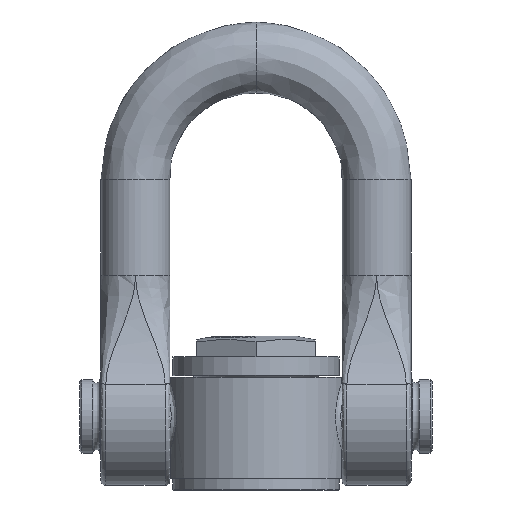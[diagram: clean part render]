
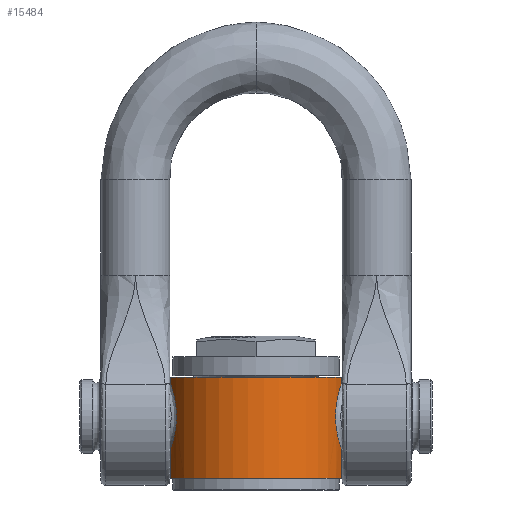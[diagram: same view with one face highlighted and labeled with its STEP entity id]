
A CAD part, left-side view. The second image highlights one B-rep face of the part: STEP entity #15484.
In plain terms, the highlighted cylindrical face has radius 37.5 mm (diameter 75 mm), a partial arc.
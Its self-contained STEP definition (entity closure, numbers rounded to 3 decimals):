
#977=LINE('',#27916,#1805);
#981=LINE('',#28282,#1809);
#983=LINE('',#28286,#1811);
#984=LINE('',#28288,#1812);
#1805=VECTOR('',#18634,10.);
#1809=VECTOR('',#18720,10.);
#1811=VECTOR('',#18726,10.);
#1812=VECTOR('',#18729,10.);
#2326=ELLIPSE('',#16526,17.07,15.009);
#2327=ELLIPSE('',#16527,17.07,15.009);
#2330=ELLIPSE('',#16530,17.07,15.009);
#2331=ELLIPSE('',#16531,17.07,15.009);
#2394=CYLINDRICAL_SURFACE('',#16551,37.5);
#2813=FACE_OUTER_BOUND('',#3738,.T.);
#3738=EDGE_LOOP('',(#12062,#12063,#12064,#12065,#12066,#12067,#12068,#12069,
#12070,#12071,#12072,#12073,#12074,#12075,#12076,#12077));
#4442=CIRCLE('',#16540,37.5);
#4446=CIRCLE('',#16546,37.5);
#5332=B_SPLINE_CURVE_WITH_KNOTS('',3,(#27743,#27744,#27745,#27746,#27747,
#27748,#27749,#27750),.UNSPECIFIED.,.F.,.F.,(4,2,2,4),(1.872,
1.928,1.992,1.994),.UNSPECIFIED.);
#5337=B_SPLINE_CURVE_WITH_KNOTS('',3,(#27810,#27811,#27812,#27813,#27814,
#27815,#27816,#27817),.UNSPECIFIED.,.F.,.F.,(4,2,2,4),(1.268,
1.288,1.331,1.348),.UNSPECIFIED.);
#5347=B_SPLINE_CURVE_WITH_KNOTS('',3,(#27905,#27906,#27907,#27908,#27909,
#27910),.UNSPECIFIED.,.F.,.F.,(4,2,4),(1.948,2.012,
2.057),.UNSPECIFIED.);
#5348=B_SPLINE_CURVE_WITH_KNOTS('',3,(#27920,#27921,#27922,#27923,#27924,
#27925,#27926,#27927),.UNSPECIFIED.,.F.,.F.,(4,2,2,4),(1.268,
1.288,1.331,1.348),.UNSPECIFIED.);
#5358=B_SPLINE_CURVE_WITH_KNOTS('',3,(#28073,#28074,#28075,#28076,#28077,
#28078,#28079,#28080,#28081),.UNSPECIFIED.,.F.,.F.,(4,1,1,1,1,1,4),(-13.112,
-12.433,-12.192,-11.709,-11.226,
-10.743,-9.823),.UNSPECIFIED.);
#5360=B_SPLINE_CURVE_WITH_KNOTS('',3,(#28189,#28190,#28191,#28192,#28193,
#28194,#28195,#28196,#28197),.UNSPECIFIED.,.F.,.F.,(4,1,1,1,1,1,4),(-13.112,
-12.433,-12.192,-11.709,-11.226,
-10.743,-9.823),.UNSPECIFIED.);
#6461=VERTEX_POINT('',#27686);
#6467=VERTEX_POINT('',#27741);
#6475=VERTEX_POINT('',#27796);
#6476=VERTEX_POINT('',#27809);
#6485=VERTEX_POINT('',#27868);
#6488=VERTEX_POINT('',#27903);
#6490=VERTEX_POINT('',#27914);
#6491=VERTEX_POINT('',#27918);
#6492=VERTEX_POINT('',#27919);
#6508=VERTEX_POINT('',#28070);
#6509=VERTEX_POINT('',#28072);
#6512=VERTEX_POINT('',#28186);
#6513=VERTEX_POINT('',#28188);
#6519=VERTEX_POINT('',#28266);
#6520=VERTEX_POINT('',#28268);
#6523=VERTEX_POINT('',#28278);
#8450=EDGE_CURVE('',#6467,#6461,#5332,.T.);
#8459=EDGE_CURVE('',#6476,#6475,#5337,.F.);
#8475=EDGE_CURVE('',#6488,#6485,#5347,.T.);
#8478=EDGE_CURVE('',#6488,#6490,#977,.T.);
#8479=EDGE_CURVE('',#6491,#6492,#5348,.F.);
#8498=EDGE_CURVE('',#6485,#6508,#2326,.F.);
#8499=EDGE_CURVE('',#6508,#6509,#5358,.T.);
#8500=EDGE_CURVE('',#6475,#6509,#2327,.T.);
#8504=EDGE_CURVE('',#6461,#6512,#2330,.F.);
#8505=EDGE_CURVE('',#6512,#6513,#5360,.T.);
#8506=EDGE_CURVE('',#6492,#6513,#2331,.T.);
#8514=EDGE_CURVE('',#6519,#6520,#4442,.T.);
#8520=EDGE_CURVE('',#6523,#6490,#4446,.T.);
#8521=EDGE_CURVE('',#6519,#6476,#981,.T.);
#8523=EDGE_CURVE('',#6523,#6491,#983,.T.);
#8524=EDGE_CURVE('',#6467,#6520,#984,.T.);
#12062=ORIENTED_EDGE('',*,*,#8499,.F.);
#12063=ORIENTED_EDGE('',*,*,#8498,.F.);
#12064=ORIENTED_EDGE('',*,*,#8475,.F.);
#12065=ORIENTED_EDGE('',*,*,#8478,.T.);
#12066=ORIENTED_EDGE('',*,*,#8520,.F.);
#12067=ORIENTED_EDGE('',*,*,#8523,.T.);
#12068=ORIENTED_EDGE('',*,*,#8479,.T.);
#12069=ORIENTED_EDGE('',*,*,#8506,.T.);
#12070=ORIENTED_EDGE('',*,*,#8505,.F.);
#12071=ORIENTED_EDGE('',*,*,#8504,.F.);
#12072=ORIENTED_EDGE('',*,*,#8450,.F.);
#12073=ORIENTED_EDGE('',*,*,#8524,.T.);
#12074=ORIENTED_EDGE('',*,*,#8514,.F.);
#12075=ORIENTED_EDGE('',*,*,#8521,.T.);
#12076=ORIENTED_EDGE('',*,*,#8459,.T.);
#12077=ORIENTED_EDGE('',*,*,#8500,.T.);
#15484=ADVANCED_FACE('',(#2813),#2394,.T.);
#16526=AXIS2_PLACEMENT_3D('',#28071,#18673,#18674);
#16527=AXIS2_PLACEMENT_3D('',#28082,#18675,#18676);
#16530=AXIS2_PLACEMENT_3D('',#28187,#18681,#18682);
#16531=AXIS2_PLACEMENT_3D('',#28198,#18683,#18684);
#16540=AXIS2_PLACEMENT_3D('',#28269,#18702,#18703);
#16546=AXIS2_PLACEMENT_3D('',#28280,#18716,#18717);
#16551=AXIS2_PLACEMENT_3D('',#28289,#18730,#18731);
#18634=DIRECTION('',(0.,0.,-1.));
#18673=DIRECTION('center_axis',(0.093,-0.97,-0.224));
#18674=DIRECTION('ref_axis',(0.374,0.243,-0.895));
#18675=DIRECTION('center_axis',(0.093,-0.97,0.224));
#18676=DIRECTION('ref_axis',(-0.374,-0.243,-0.895));
#18681=DIRECTION('center_axis',(0.093,0.97,0.224));
#18682=DIRECTION('ref_axis',(0.374,-0.243,0.895));
#18683=DIRECTION('center_axis',(0.093,0.97,-0.224));
#18684=DIRECTION('ref_axis',(-0.374,0.243,0.895));
#18702=DIRECTION('center_axis',(0.,0.,1.));
#18703=DIRECTION('ref_axis',(-1.,0.,0.));
#18716=DIRECTION('center_axis',(0.,0.,-1.));
#18717=DIRECTION('ref_axis',(-1.,0.,0.));
#18720=DIRECTION('',(0.,0.,-1.));
#18726=DIRECTION('',(0.,0.,1.));
#18729=DIRECTION('',(0.,0.,1.));
#18730=DIRECTION('center_axis',(0.,0.,1.));
#18731=DIRECTION('ref_axis',(-1.,0.,0.));
#27686=CARTESIAN_POINT('',(-10.379,-36.035,40.193));
#27741=CARTESIAN_POINT('',(-10.5,-36.,40.62));
#27743=CARTESIAN_POINT('Ctrl Pts',(-10.5,-36.,40.62));
#27744=CARTESIAN_POINT('Ctrl Pts',(-10.5,-36.,40.549));
#27745=CARTESIAN_POINT('Ctrl Pts',(-10.493,-36.002,
40.479));
#27746=CARTESIAN_POINT('Ctrl Pts',(-10.458,-36.012,
40.333));
#27747=CARTESIAN_POINT('Ctrl Pts',(-10.428,-36.021,40.261));
#27748=CARTESIAN_POINT('Ctrl Pts',(-10.381,-36.034,
40.195));
#27749=CARTESIAN_POINT('Ctrl Pts',(-10.38,-36.035,
40.194));
#27750=CARTESIAN_POINT('Ctrl Pts',(-10.379,-36.035,
40.193));
#27796=CARTESIAN_POINT('',(-10.379,36.035,40.193));
#27809=CARTESIAN_POINT('',(-10.5,36.,40.62));
#27810=CARTESIAN_POINT('Ctrl Pts',(-10.379,36.035,40.193));
#27811=CARTESIAN_POINT('Ctrl Pts',(-10.401,36.029,40.223));
#27812=CARTESIAN_POINT('Ctrl Pts',(-10.42,36.023,40.255));
#27813=CARTESIAN_POINT('Ctrl Pts',(-10.469,36.009,40.363));
#27814=CARTESIAN_POINT('Ctrl Pts',(-10.488,36.004,40.443));
#27815=CARTESIAN_POINT('Ctrl Pts',(-10.499,36.,40.556));
#27816=CARTESIAN_POINT('Ctrl Pts',(-10.5,36.,40.588));
#27817=CARTESIAN_POINT('Ctrl Pts',(-10.5,36.,40.62));
#27868=CARTESIAN_POINT('',(-10.379,36.035,11.807));
#27903=CARTESIAN_POINT('',(-10.5,36.,11.38));
#27905=CARTESIAN_POINT('Ctrl Pts',(-10.5,36.,11.38));
#27906=CARTESIAN_POINT('Ctrl Pts',(-10.5,36.,11.469));
#27907=CARTESIAN_POINT('Ctrl Pts',(-10.489,36.003,11.558));
#27908=CARTESIAN_POINT('Ctrl Pts',(-10.443,36.017,11.702));
#27909=CARTESIAN_POINT('Ctrl Pts',(-10.415,36.025,11.757));
#27910=CARTESIAN_POINT('Ctrl Pts',(-10.379,36.035,11.807));
#27914=CARTESIAN_POINT('',(-10.5,36.,0.));
#27916=CARTESIAN_POINT('',(-10.5,36.,0.));
#27918=CARTESIAN_POINT('',(-10.5,-36.,11.38));
#27919=CARTESIAN_POINT('',(-10.379,-36.035,11.807));
#27920=CARTESIAN_POINT('Ctrl Pts',(-10.379,-36.035,
11.807));
#27921=CARTESIAN_POINT('Ctrl Pts',(-10.401,-36.029,
11.777));
#27922=CARTESIAN_POINT('Ctrl Pts',(-10.42,-36.023,11.745));
#27923=CARTESIAN_POINT('Ctrl Pts',(-10.469,-36.009,
11.637));
#27924=CARTESIAN_POINT('Ctrl Pts',(-10.488,-36.004,
11.557));
#27925=CARTESIAN_POINT('Ctrl Pts',(-10.499,-36.,
11.444));
#27926=CARTESIAN_POINT('Ctrl Pts',(-10.5,-36.,11.412));
#27927=CARTESIAN_POINT('Ctrl Pts',(-10.5,-36.,11.38));
#28070=CARTESIAN_POINT('',(-10.5,36.,11.909));
#28071=CARTESIAN_POINT('Origin',(-1.565,33.962,24.447));
#28072=CARTESIAN_POINT('',(-10.5,36.,40.091));
#28073=CARTESIAN_POINT('Ctrl Pts',(-10.5,36.,11.909));
#28074=CARTESIAN_POINT('Ctrl Pts',(-12.119,35.527,13.282));
#28075=CARTESIAN_POINT('Ctrl Pts',(-13.982,34.822,15.566));
#28076=CARTESIAN_POINT('Ctrl Pts',(-15.92,33.964,19.672));
#28077=CARTESIAN_POINT('Ctrl Pts',(-16.924,33.465,23.558));
#28078=CARTESIAN_POINT('Ctrl Pts',(-16.925,33.463,28.443));
#28079=CARTESIAN_POINT('Ctrl Pts',(-15.354,34.246,34.515));
#28080=CARTESIAN_POINT('Ctrl Pts',(-12.695,35.359,38.229));
#28081=CARTESIAN_POINT('Ctrl Pts',(-10.5,36.,40.091));
#28082=CARTESIAN_POINT('Origin',(-1.564,33.962,27.553));
#28186=CARTESIAN_POINT('',(-10.5,-36.,40.091));
#28187=CARTESIAN_POINT('Origin',(-1.565,-33.962,27.553));
#28188=CARTESIAN_POINT('',(-10.5,-36.,11.909));
#28189=CARTESIAN_POINT('Ctrl Pts',(-10.5,-36.,
40.091));
#28190=CARTESIAN_POINT('Ctrl Pts',(-12.119,-35.527,
38.718));
#28191=CARTESIAN_POINT('Ctrl Pts',(-13.982,-34.822,
36.434));
#28192=CARTESIAN_POINT('Ctrl Pts',(-15.92,-33.964,
32.328));
#28193=CARTESIAN_POINT('Ctrl Pts',(-16.924,-33.465,
28.442));
#28194=CARTESIAN_POINT('Ctrl Pts',(-16.925,-33.463,23.557));
#28195=CARTESIAN_POINT('Ctrl Pts',(-15.354,-34.246,
17.485));
#28196=CARTESIAN_POINT('Ctrl Pts',(-12.695,-35.359,
13.771));
#28197=CARTESIAN_POINT('Ctrl Pts',(-10.5,-36.,
11.909));
#28198=CARTESIAN_POINT('Origin',(-1.565,-33.962,24.447));
#28266=CARTESIAN_POINT('',(-10.5,36.,42.5));
#28268=CARTESIAN_POINT('',(-10.5,-36.,42.5));
#28269=CARTESIAN_POINT('Origin',(0.,0.,42.5));
#28278=CARTESIAN_POINT('',(-10.5,-36.,0.));
#28280=CARTESIAN_POINT('Origin',(0.,0.,0.));
#28282=CARTESIAN_POINT('',(-10.5,36.,0.));
#28286=CARTESIAN_POINT('',(-10.5,-36.,0.));
#28288=CARTESIAN_POINT('',(-10.5,-36.,0.));
#28289=CARTESIAN_POINT('Origin',(0.,0.,0.));
